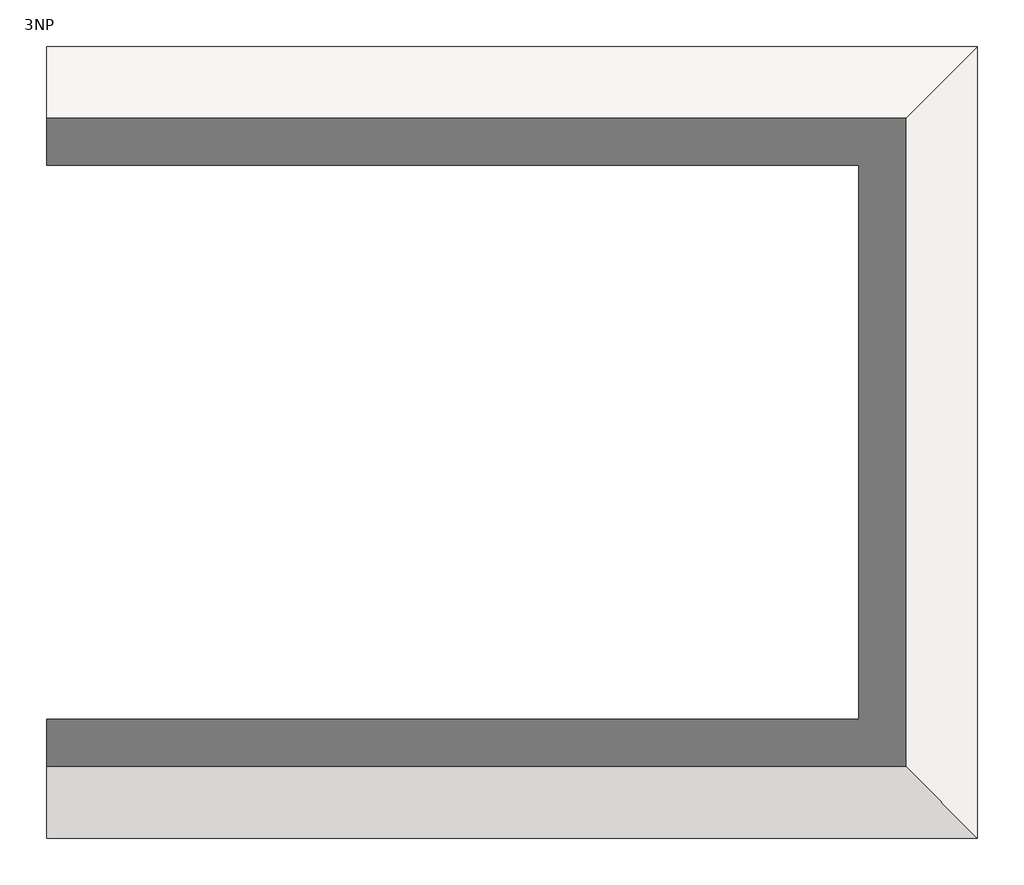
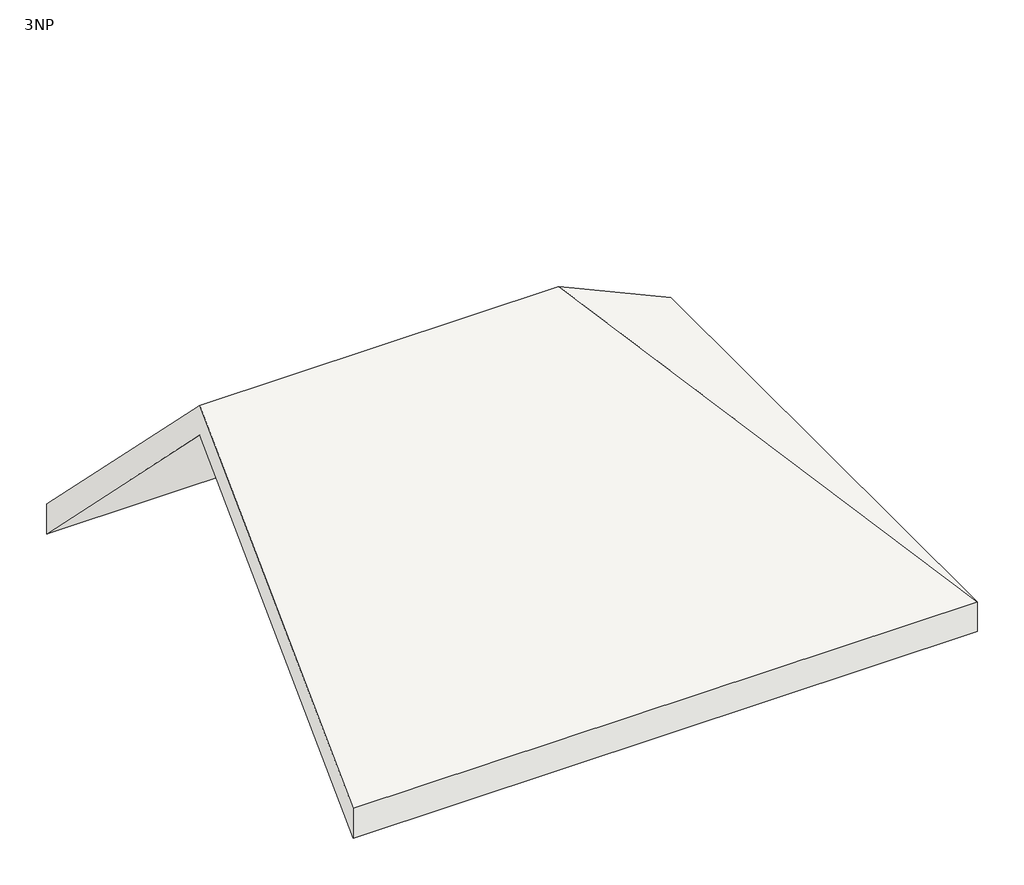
# One storey: 1 roof.
"""IFC4 building model written with IfcOpenShell, lengths in millimetres."""

import ifcopenshell
import ifcopenshell.guid

model = None  # the IFC model being written
_history = None  # IfcOwnerHistory: only IFC2X3 demands one
_inside = {}  # id of a spatial element -> (the spatial element, [elements in it])
_under = {}  # id of a project, library or spatial element -> (it, [spatial elements below it])
_declared = {}  # id of a project -> (the project, [libraries it declares])
_typed = {}  # id of a type object -> (the type object, [elements of that type])
_made_of = {}  # id of a material, layer set ... -> (it, [elements and type objects made of it])


def new_model(schema):
    """Start an empty IFC model of exactly this schema.

    Asked for "IFC4X3", IfcOpenShell would pick the latest addendum, in which some entities
    have other attributes; the version numbers below select the first issue.
    IFC2X3 requires an IfcOwnerHistory on every rooted entity: one is made here for all.
    """
    global model, _history
    if schema == "IFC4X3":
        model = ifcopenshell.file(schema_version=(4, 3, 0, 0))
    else:
        model = ifcopenshell.file(schema=schema)
    _inside.clear()
    _under.clear()
    _declared.clear()
    _typed.clear()
    _made_of.clear()
    _history = None
    if model.schema == "IFC2X3":
        org = make("IfcOrganization", Name="unknown")
        user = make(
            "IfcPersonAndOrganization",
            ThePerson=make("IfcPerson", FamilyName="unknown"),
            TheOrganization=org,
        )
        app = make(
            "IfcApplication",
            ApplicationDeveloper=org,
            Version="unknown",
            ApplicationFullName="unknown",
            ApplicationIdentifier="unknown",
        )
        _history = make(
            "IfcOwnerHistory",
            OwningUser=user,
            OwningApplication=app,
            ChangeAction="ADDED",
            CreationDate=0,
        )
    return model


def make(cls, **values):
    """One entity of the class cls with the attributes given. An attribute that is None is left unset."""
    return model.create_entity(
        cls, **{name: value for name, value in values.items() if value is not None}
    )


def rooted(cls, **values):
    """An entity with a GlobalId (a new one), such as an element, a storey or a relation."""
    return make(cls, GlobalId=ifcopenshell.guid.new(), OwnerHistory=_history, **values)


def si_unit(unit_type, name, prefix=None):
    """IfcSIUnit, for example si_unit("LENGTHUNIT", "METRE", prefix="MILLI")."""
    return make("IfcSIUnit", UnitType=unit_type, Prefix=prefix, Name=name)


def assignment(units):
    """IfcUnitAssignment: the units of a project."""
    return None if units is None else make("IfcUnitAssignment", Units=units)


def point(xyz):
    """IfcCartesianPoint."""
    return None if xyz is None else make("IfcCartesianPoint", Coordinates=xyz)


def direction(xyz):
    """IfcDirection."""
    return None if xyz is None else make("IfcDirection", DirectionRatios=xyz)


def frame(location, z_axis=None, x_axis=None):
    """IfcAxis2Placement3D, a coordinate frame: its origin and axes. An axis left out is left unset."""
    return make(
        "IfcAxis2Placement3D",
        Location=point(location),
        Axis=direction(z_axis),
        RefDirection=direction(x_axis),
    )


def origin():
    """The frame at (0, 0, 0) with its axes left unset."""
    return frame((0.0, 0.0, 0.0))


def place(relative_to, where):
    """IfcLocalPlacement: puts the frame where relative to a parent placement (None: the world)."""
    return make(
        "IfcLocalPlacement", PlacementRelTo=relative_to, RelativePlacement=where
    )


def context(
    kind, dimensions, precision=None, world=None, true_north=None, identifier=None
):
    """IfcGeometricRepresentationContext, for example the 3D "Model" context."""
    return make(
        "IfcGeometricRepresentationContext",
        ContextIdentifier=identifier,
        ContextType=kind,
        CoordinateSpaceDimension=dimensions,
        Precision=precision,
        WorldCoordinateSystem=world,
        TrueNorth=true_north,
    )


def project(units=None, contexts=None):
    """IfcProject with its units and contexts."""
    return rooted(
        "IfcProject",
        Name="project",
        RepresentationContexts=contexts,
        UnitsInContext=assignment(units),
    )


def spatial(cls, under=None, at=None, **own):
    """A site, building, storey or space (cls), placed at a placement, below another one or the project."""
    s = rooted(cls, ObjectPlacement=at, **own)
    if under is not None:
        _under.setdefault(under.id(), (under, []))[1].append(s)
    return s


def faces_of(points, faces, orient=None, outer=None):
    """IfcFace entities. A face is a list of loops; a loop is a list of indices into points, from 0.

    orient and outer hold one flag for each loop. By default every Orientation is true, the
    first loop of a face is its IfcFaceOuterBound and the others are IfcFaceBound.
    """
    made = []
    for i, loops in enumerate(faces):
        bounds = []
        for j, loop in enumerate(loops):
            is_outer = j == 0 if outer is None else outer[i][j]
            bounds.append(
                make(
                    "IfcFaceOuterBound" if is_outer else "IfcFaceBound",
                    Bound=make("IfcPolyLoop", Polygon=[points[k] for k in loop]),
                    Orientation=True if orient is None else orient[i][j],
                )
            )
        made.append(make("IfcFace", Bounds=bounds))
    return made


def faceted_brep(points, faces, orient=None, outer=None, voids=None):
    """IfcFacetedBrep: a solid bounded by flat faces; with voids (closed shells), ...WithVoids."""
    shared = [point(p) for p in points]
    hull = make("IfcClosedShell", CfsFaces=faces_of(shared, faces, orient, outer))
    if voids is None:
        return make("IfcFacetedBrep", Outer=hull)
    return make(
        "IfcFacetedBrepWithVoids",
        Outer=hull,
        Voids=[
            make(cls, CfsFaces=faces_of(shared, fs, o, b)) for cls, fs, o, b in voids
        ],
    )


def shape(context_of_items, identifier, shape_type, items):
    """IfcShapeRepresentation: the items that make up one representation, for example the "Body"."""
    return make(
        "IfcShapeRepresentation",
        ContextOfItems=context_of_items,
        RepresentationIdentifier=identifier,
        RepresentationType=shape_type,
        Items=items,
    )


def made_of(thing, what):
    """Note that an element or type object is made of a material, layer set ...; save() writes the relation."""
    if what is not None:
        _made_of.setdefault(what.id(), (what, []))[1].append(thing)
    return thing


def element(
    cls,
    number,
    at=None,
    inside=None,
    cuts=None,
    type_object=None,
    material=None,
    context=None,
    identifier="Body",
    shape_type=None,
    held_by="IfcProductDefinitionShape",
    body=None,
    shapes=None,
    **own,
):
    """One element of the class cls, such as IfcWall. Its Tag is "e" and its number.

    at: its placement. inside: the storey or other place that contains it. cuts: it is an
    opening in that element (IfcRelVoidsElement). A single representation is given by context,
    identifier, shape_type and body (its items); several are given by shapes. held_by: the class
    of the entity that holds the representations. save() writes the other relations.
    """
    e = rooted(cls, Tag="e%d" % number, ObjectPlacement=at, **own)
    if body is not None:
        shapes = [shape(context, identifier, shape_type, body)]
    if shapes is not None:
        e.Representation = make(held_by, Representations=shapes)
    if inside is not None:
        _inside.setdefault(inside.id(), (inside, []))[1].append(e)
    if cuts is not None:
        rooted(
            "IfcRelVoidsElement", RelatingBuildingElement=cuts, RelatedOpeningElement=e
        )
    if type_object is not None:
        _typed.setdefault(type_object.id(), (type_object, []))[1].append(e)
    return made_of(e, material)


def aggregate(whole, parts):
    """IfcRelAggregates: a whole, such as a stair, and the parts it consists of."""
    return rooted("IfcRelAggregates", RelatingObject=whole, RelatedObjects=parts)


def save(model, path):
    """Write the relations noted so far, then the file.

    IfcRelAggregates (storeys below a building ...), IfcRelContainedInSpatialStructure (elements
    in a storey), IfcRelDefinesByType, IfcRelAssociatesMaterial and IfcRelDeclares: one each for
    every whole, place, type object, material and project.
    """
    for whole, parts in _under.values():
        aggregate(whole, parts)
    for where, things in _inside.values():
        rooted(
            "IfcRelContainedInSpatialStructure",
            RelatedElements=things,
            RelatingStructure=where,
        )
    for kind, things in _typed.values():
        rooted("IfcRelDefinesByType", RelatedObjects=things, RelatingType=kind)
    for what, things in _made_of.values():
        rooted("IfcRelAssociatesMaterial", RelatedObjects=things, RelatingMaterial=what)
    for by, libraries in _declared.values():
        rooted("IfcRelDeclares", RelatingContext=by, RelatedDefinitions=libraries)
    model.write(path)


model = new_model("IFC4")

# Units and contexts
model_context = context("Model", 3, world=origin())
ifc_project = project(units=[si_unit("LENGTHUNIT", "METRE", prefix="MILLI")], contexts=[model_context])

# Site, building, storey
site = spatial("IfcSite", under=ifc_project)
building = spatial("IfcBuilding", under=site)
storey = spatial("IfcBuildingStorey", under=building, Name="3NP", Elevation=8000.0)

# Roof
placement = place(None, origin())
element("IfcRoof", 1, ObjectType="Tenkostěnný nosník - Trapézový plech – Falcovaný plech", at=placement, inside=storey, context=model_context, shape_type="Brep", body=[
    faceted_brep([(28776.5997597, 13835.2898989, 13175.0), (28776.5997597, 19510.2898989, 7500.0), (42126.5997597, 19510.2898989, 7500.0), (36451.5997597, 13835.2898989, 13175.0), (42126.5997597, 8160.2898989, 7500.0), (28776.5997597, 8160.2898989, 7500.0), (28776.5997597, 19510.2898989, 8170.3372286), (28776.5997597, 13835.2898989, 13845.3372286), (36451.5997597, 13835.2898989, 13845.3372286), (42126.5997597, 19510.2898989, 8170.3372286), (42126.5997597, 8160.2898989, 8170.3372286), (28776.5997597, 8160.2898989, 8170.3372286)], [[[0, 1, 2, 3]], [[4, 3, 2]], [[5, 0, 3, 4]], [[6, 7, 8, 9]], [[10, 9, 8]], [[11, 10, 8, 7]], [[4, 10, 11, 5]], [[2, 9, 10, 4]], [[1, 6, 9, 2]], [[11, 7, 6, 1, 0, 5]]]),
])

save(model, "model.ifc")
